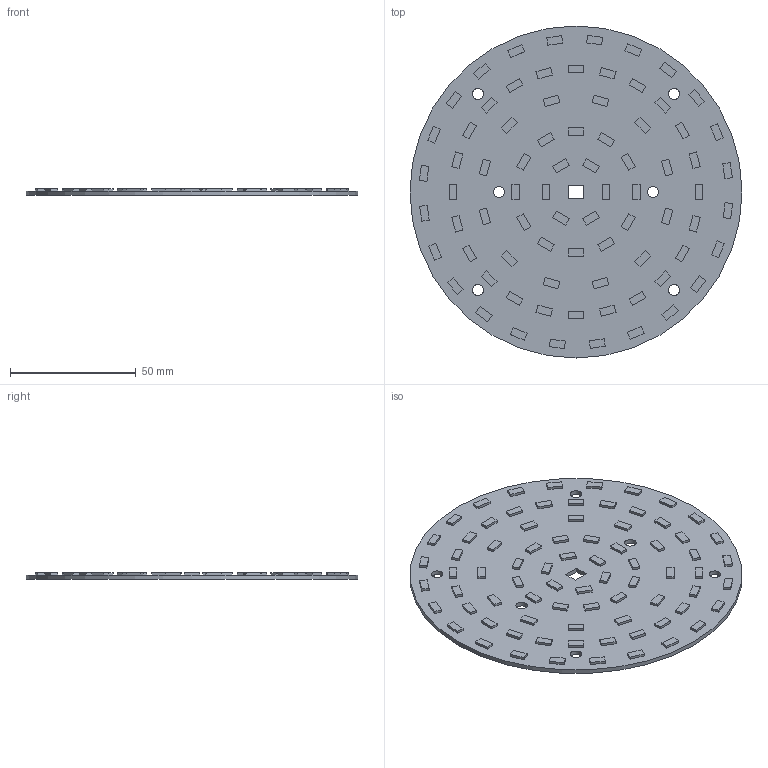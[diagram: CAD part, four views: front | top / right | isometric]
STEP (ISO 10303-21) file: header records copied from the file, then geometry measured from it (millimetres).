
FILE_DESCRIPTION(('ML78C3AH'),'2;1');
FILE_NAME('Z:\Mixdeal\Catalogo\Modelos 3D\STEP\ML78C3AH.stp','2015-06-26T15:28:19',('Nicolas Kretzig'),('MIXDEAL SA'),'Autodesk Inventor 2011','Autodesk Inventor 2011','');
FILE_SCHEMA(('AUTOMOTIVE_DESIGN { 1 0 10303 214 1 1 1 1 }'));
Length unit declared in the file: millimetre
Products named in the file (1): ML78C3AH
Bounding box: 132 x 132 x 2.75 mm (x, y, z)
Volume: 25128.9 mm3; surface area: 29432.3 mm2
Topology: 1 solids, 1 shells, 403 faces, 975 edges, 652 vertices
Faces by surface type: plane 396, cylinder 7
Full cylindrical faces by diameter (mm): 4.5 x6, 132 x1
Entity records: 11893 total; most frequent: CARTESIAN_POINT 2012, ORIENTED_EDGE 1924, DIRECTION 1784, EDGE_CURVE 962, VECTOR 948, LINE 948, VERTEX_POINT 646, EDGE_LOOP 502
